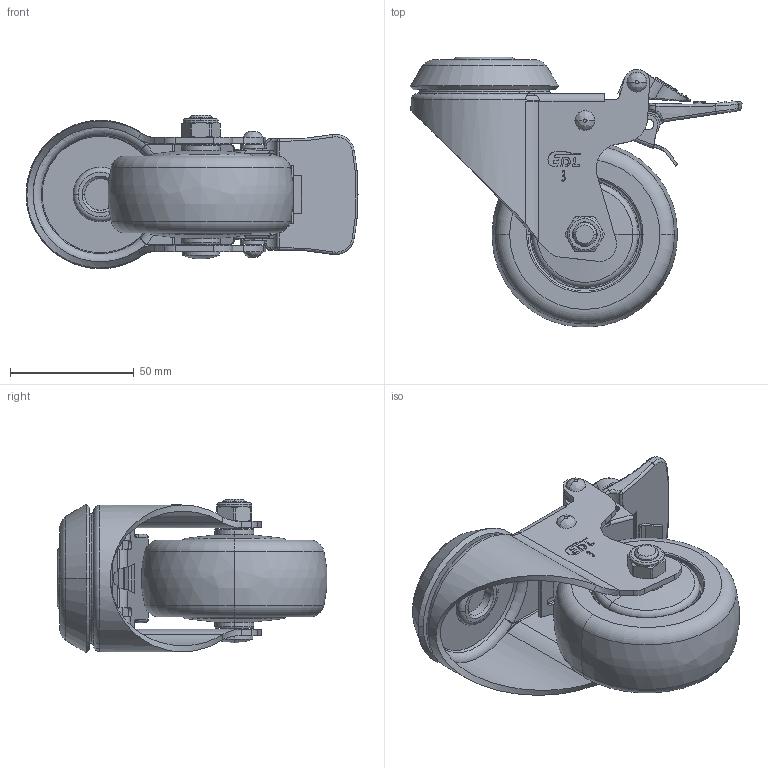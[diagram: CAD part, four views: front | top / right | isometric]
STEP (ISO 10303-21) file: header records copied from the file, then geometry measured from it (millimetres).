
FILE_DESCRIPTION((''),'2;1');
FILE_NAME('57283H-573-77_ASM','2021-01-05T',('lenovo'),(''),'PRO/ENGINEER BY PARAMETRIC TECHNOLOGY CORPORATION, 2010280','PRO/ENGINEER BY PARAMETRIC TECHNOLOGY CORPORATION, 2010280','');
FILE_SCHEMA(('CONFIG_CONTROL_DESIGN'));
Length unit declared in the file: millimetre
Products named in the file (10): 5710-058; 5723-321; 5720-211; 573-77; 5710-020; 5710-031; 570-64OFF; 5734-401; 571-64ON; 57283H-573-77_ASM
Assembly tree (9 placements, depth 2):
  57283H-573-77_ASM
    5710-058
    5723-321
    5720-211
    573-77
    5710-020
    5710-031
    570-64OFF
    5734-401
    571-64ON
Bounding box: 133.92 x 108.85 x 62 mm (x, y, z)
Volume: 212748.7 mm3; surface area: 69833.4 mm2
Topology: 9 solids, 9 shells, 811 faces, 2122 edges, 1345 vertices
Faces by surface type: plane 426, cylinder 197, bspline 76, cone 60, torus 44, sphere 8
Entity records: 28300 total; most frequent: CARTESIAN_POINT 8544, ORIENTED_EDGE 4232, DIRECTION 3902, EDGE_CURVE 2116, VERTEX_POINT 1343, AXIS2_PLACEMENT_3D 1338, VECTOR 1226, LINE 1226
